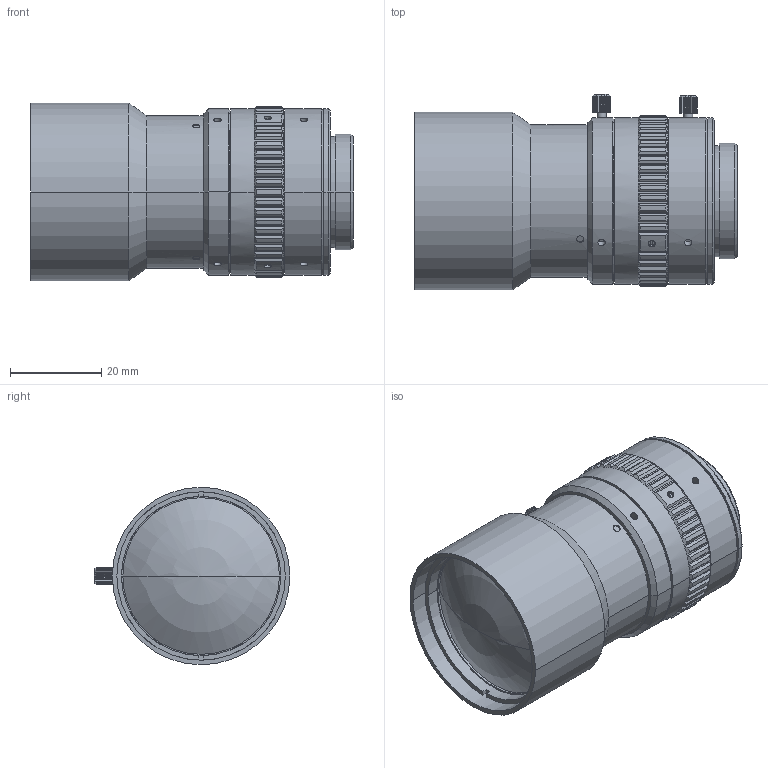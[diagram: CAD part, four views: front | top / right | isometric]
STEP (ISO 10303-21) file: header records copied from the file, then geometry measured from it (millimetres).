
FILE_DESCRIPTION((''),'2;1');
FILE_NAME('OPT-C10028-2M-N-V1_0','2018-04-26T09:53:17',('dcsongs'),(''),'CREO PARAMETRIC BY PTC INC, 2017380','CREO PARAMETRIC BY PTC INC, 2017380','');
FILE_SCHEMA(('AUTOMOTIVE_DESIGN { 1 0 10303 214 1 1 1 1 }'));
Length unit declared in the file: millimetre
Products named in the file (1): OPT-C10028-2M-N-V1_0
Bounding box: 70.86 x 43 x 39 mm (x, y, z)
Volume: 66283.7 mm3; surface area: 19027.4 mm2
Topology: 1 solids, 7 shells, 694 faces, 1889 edges, 1226 vertices
Faces by surface type: cylinder 286, plane 247, cone 124, bspline 33, sphere 4
Entity records: 28584 total; most frequent: CARTESIAN_POINT 9028, ORIENTED_EDGE 3770, DIRECTION 3232, EDGE_CURVE 1885, AXIS2_PLACEMENT_3D 1266, VERTEX_POINT 1226, EDGE_LOOP 739, VECTOR 697
